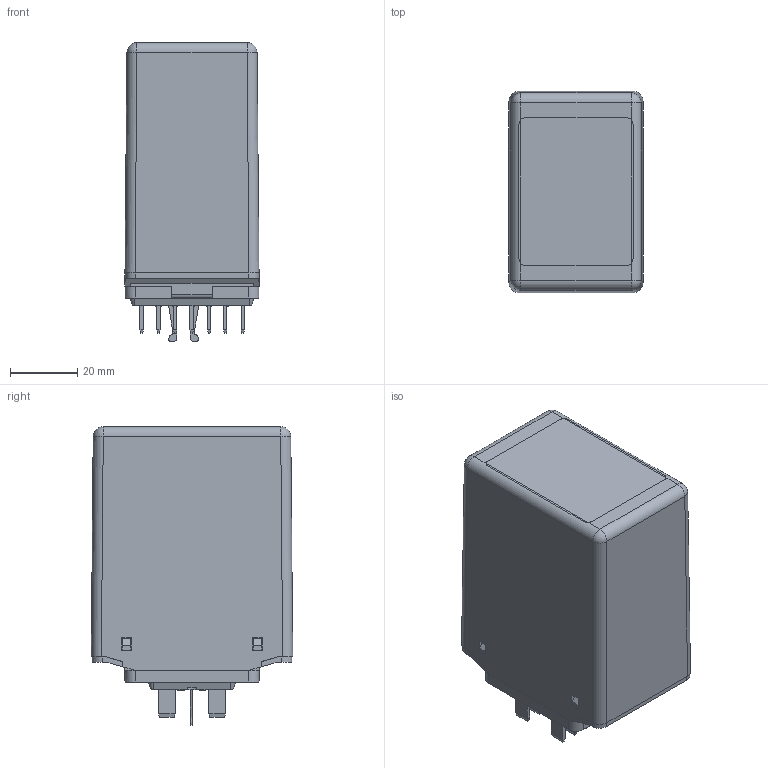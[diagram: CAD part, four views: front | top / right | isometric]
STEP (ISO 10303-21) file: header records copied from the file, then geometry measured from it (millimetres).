
FILE_DESCRIPTION((''),'2;1');
FILE_NAME('I:\TI\Bibliotheek\Inventor\Relais\ACTD4\ACTD4-U200.stp','2011-03-07T15:07:36',('oey'),(''),'Autodesk Inventor 2011','Autodesk Inventor 2011','');
FILE_SCHEMA(('AUTOMOTIVE_DESIGN { 1 0 10303 214 1 1 1 1 }'));
Length unit declared in the file: millimetre
Products named in the file (1): ACTD4-U200
Bounding box: 40 x 60.01 x 88.95 mm (x, y, z)
Volume: 43297.4 mm3; surface area: 46870.2 mm2
Topology: 1 solids, 3 shells, 1622 faces, 4867 edges, 3171 vertices
Faces by surface type: plane 995, cylinder 421, bspline 128, sphere 64, cone 12, torus 2
Full cylindrical faces by diameter (mm): 1.7 x2, 2 x3, 2.69 x1, 2.7 x5, 3.3 x1, 3.5 x1, 4 x8, 4.5 x1, 5 x1
Entity records: 58024 total; most frequent: CARTESIAN_POINT 11776, ORIENTED_EDGE 9814, DIRECTION 8825, EDGE_CURVE 4907, VECTOR 3503, LINE 3503, VERTEX_POINT 3160, AXIS2_PLACEMENT_3D 2661
